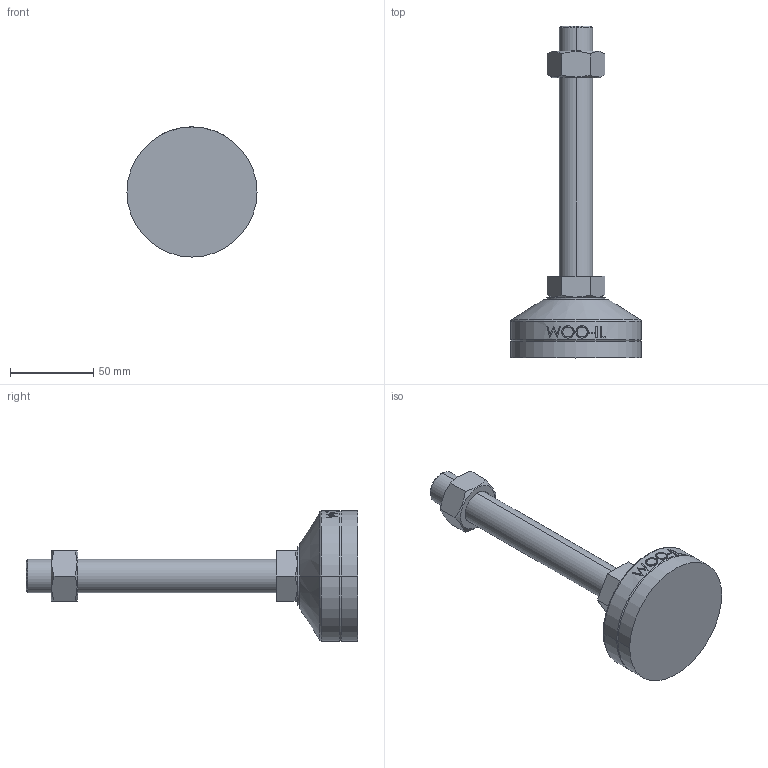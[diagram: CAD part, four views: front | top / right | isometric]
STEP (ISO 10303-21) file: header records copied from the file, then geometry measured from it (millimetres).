
FILE_DESCRIPTION (( 'STEP AP214' ), '1' );
FILE_NAME ('MFR78-M20-150.step', '2021-01-13T05:39:26', ( '' ), ( '' ), 'SwSTEP 2.0', 'SolidWorks 2019', '' );
FILE_SCHEMA (( 'AUTOMOTIVE_DESIGN' ));
Length unit declared in the file: millimetre
Products named in the file (2): MFR78-M20-150
Bounding box: 78 x 199 x 78 mm (x, y, z)
Volume: 207685.4 mm3; surface area: 31897.9 mm2
Topology: 3 solids, 3 shells, 102 faces, 239 edges, 154 vertices
Faces by surface type: plane 48, cylinder 18, bspline 16, cone 14, torus 6
Entity records: 4460 total; most frequent: CARTESIAN_POINT 2185, ORIENTED_EDGE 478, DIRECTION 415, EDGE_CURVE 239, AXIS2_PLACEMENT_3D 158, VERTEX_POINT 154, EDGE_LOOP 115, ADVANCED_FACE 102
